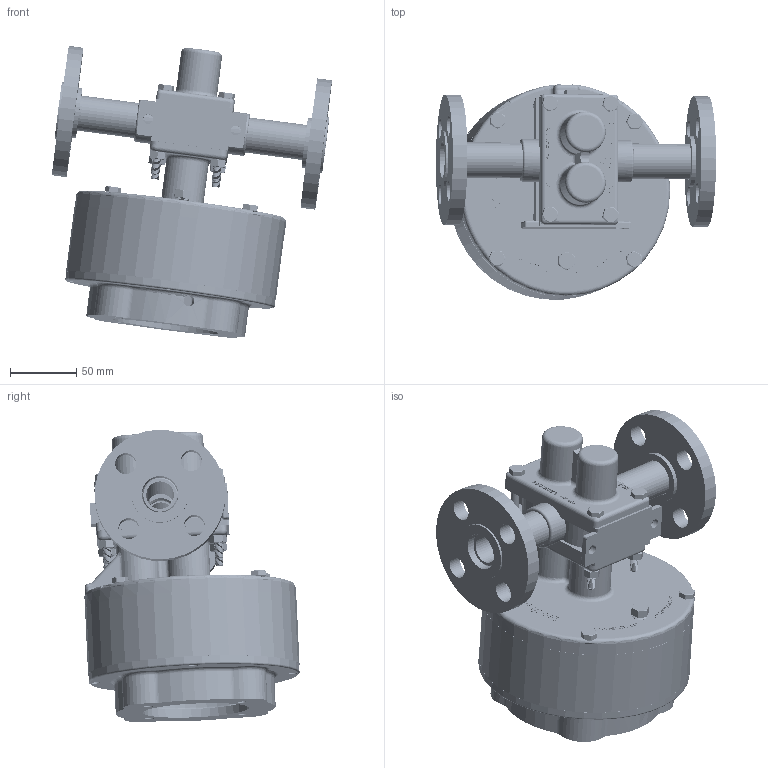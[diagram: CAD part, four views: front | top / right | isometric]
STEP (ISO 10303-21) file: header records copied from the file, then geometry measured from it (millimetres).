
FILE_DESCRIPTION (( 'STEP AP214' ), '1' );
FILE_NAME ('GMC6 FLGD IEC80 NO MOTOR.STEP', '2025-10-01T17:14:16', ( '' ), ( '' ), 'SwSTEP 2.0', 'SolidWorks 2024', '' );
FILE_SCHEMA (( 'AUTOMOTIVE_DESIGN' ));
Length unit declared in the file: inch
Products named in the file (1): GMC6 FLGD IEC80 NO MOTOR
Bounding box: 211.08 x 162.08 x 220.17 mm (x, y, z)
Volume: 978901.2 mm3; surface area: 333204.3 mm2
Topology: 29 solids, 29 shells, 3770 faces, 8987 edges, 5388 vertices
Faces by surface type: cylinder 1299, cone 1011, plane 966, bspline 366, torus 108, sphere 20
Entity records: 149982 total; most frequent: CARTESIAN_POINT 66673, ORIENTED_EDGE 17938, DIRECTION 15969, EDGE_CURVE 8969, AXIS2_PLACEMENT_3D 5672, VERTEX_POINT 5388, LINE 4625, VECTOR 4625
